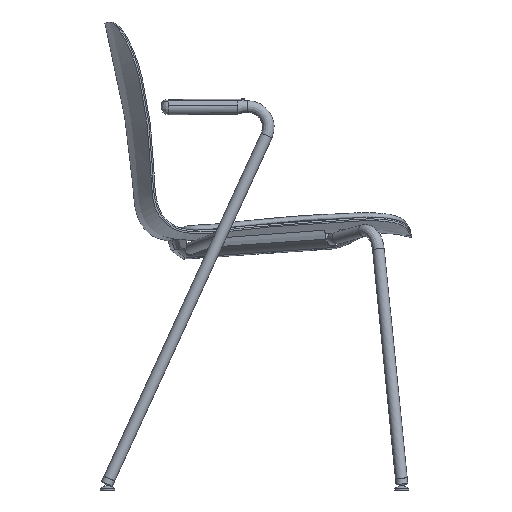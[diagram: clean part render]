
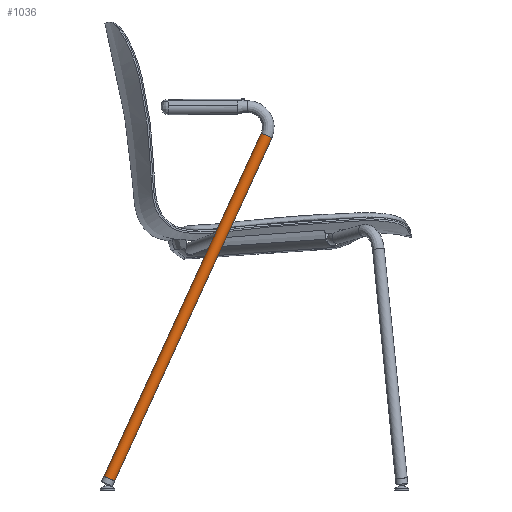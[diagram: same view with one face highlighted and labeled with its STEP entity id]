
A CAD part, left-side view. The second image highlights one B-rep face of the part: STEP entity #1036.
In plain terms, the highlighted cylindrical face has radius 10 mm (diameter 20 mm), a full revolution.
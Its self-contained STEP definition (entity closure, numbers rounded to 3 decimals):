
#1036=ADVANCED_FACE('',(#1970),#15222,.T.);
#1970=FACE_OUTER_BOUND('',#2989,.T.);
#2989=EDGE_LOOP('',(#7661,#7662,#7663,#7664));
#7661=ORIENTED_EDGE('',*,*,#10190,.F.);
#7662=ORIENTED_EDGE('',*,*,#10188,.T.);
#7663=ORIENTED_EDGE('',*,*,#10189,.F.);
#7664=ORIENTED_EDGE('',*,*,#10188,.F.);
#10188=EDGE_CURVE('',#14291,#14292,#12640,.T.);
#10189=EDGE_CURVE('',#14292,#14292,#12641,.T.);
#10190=EDGE_CURVE('',#14291,#14291,#12642,.T.);
#12640=(
BOUNDED_CURVE()
B_SPLINE_CURVE(3,(#75636,#75637,#75638,#75639),.UNSPECIFIED.,.F.,.F.)
B_SPLINE_CURVE_WITH_KNOTS((4,4),(0.,643.823),.UNSPECIFIED.)
CURVE()
GEOMETRIC_REPRESENTATION_ITEM()
RATIONAL_B_SPLINE_CURVE((1.,1.,1.,1.))
REPRESENTATION_ITEM('')
);
#12641=(
BOUNDED_CURVE()
B_SPLINE_CURVE(2,(#75640,#75641,#75642,#75643,#75644,#75645,#75646,#75647,
#75648),.UNSPECIFIED.,.T.,.F.)
B_SPLINE_CURVE_WITH_KNOTS((3,2,2,2,3),(0.,15.708,31.416,
47.124,62.832),.UNSPECIFIED.)
CURVE()
GEOMETRIC_REPRESENTATION_ITEM()
RATIONAL_B_SPLINE_CURVE((1.,0.707,1.,0.707,1.,0.707,
1.,0.707,1.))
REPRESENTATION_ITEM('')
);
#12642=(
BOUNDED_CURVE()
B_SPLINE_CURVE(2,(#75649,#75650,#75651,#75652,#75653,#75654,#75655,#75656,
#75657),.UNSPECIFIED.,.T.,.F.)
B_SPLINE_CURVE_WITH_KNOTS((3,2,2,2,3),(-62.832,-47.124,
-31.416,-15.708,0.),.UNSPECIFIED.)
CURVE()
GEOMETRIC_REPRESENTATION_ITEM()
RATIONAL_B_SPLINE_CURVE((1.,0.707,1.,0.707,1.,0.707,
1.,0.707,1.))
REPRESENTATION_ITEM('')
);
#14291=VERTEX_POINT('',#75632);
#14292=VERTEX_POINT('',#75633);
#15222=CYLINDRICAL_SURFACE('',#15901,10.);
#15901=AXIS2_PLACEMENT_3D('',#75531,#16465,$);
#16465=DIRECTION('',(0.043,-0.416,0.908));
#75531=CARTESIAN_POINT('',(-265.288,136.495,311.347));
#75632=CARTESIAN_POINT('',(-279.287,279.565,23.142));
#75633=CARTESIAN_POINT('',(-251.289,11.607,607.883));
#75636=CARTESIAN_POINT('',(-279.287,279.565,23.142));
#75637=CARTESIAN_POINT('',(-269.954,190.245,218.056));
#75638=CARTESIAN_POINT('',(-260.622,100.926,412.97));
#75639=CARTESIAN_POINT('',(-251.289,11.607,607.883));
#75640=CARTESIAN_POINT('',(-251.289,11.607,607.883));
#75641=CARTESIAN_POINT('',(-261.28,11.425,608.279));
#75642=CARTESIAN_POINT('',(-261.28,2.334,604.113));
#75643=CARTESIAN_POINT('',(-261.28,-6.756,599.947));
#75644=CARTESIAN_POINT('',(-251.289,-6.575,599.552));
#75645=CARTESIAN_POINT('',(-241.299,-6.394,599.156));
#75646=CARTESIAN_POINT('',(-241.299,2.697,603.322));
#75647=CARTESIAN_POINT('',(-241.299,11.788,607.488));
#75648=CARTESIAN_POINT('',(-251.289,11.607,607.883));
#75649=CARTESIAN_POINT('',(-279.287,279.565,23.142));
#75650=CARTESIAN_POINT('',(-269.296,279.746,22.746));
#75651=CARTESIAN_POINT('',(-269.296,270.655,18.581));
#75652=CARTESIAN_POINT('',(-269.296,261.564,14.415));
#75653=CARTESIAN_POINT('',(-279.287,261.383,14.81));
#75654=CARTESIAN_POINT('',(-289.277,261.202,15.205));
#75655=CARTESIAN_POINT('',(-289.277,270.293,19.371));
#75656=CARTESIAN_POINT('',(-289.277,279.384,23.537));
#75657=CARTESIAN_POINT('',(-279.287,279.565,23.142));
